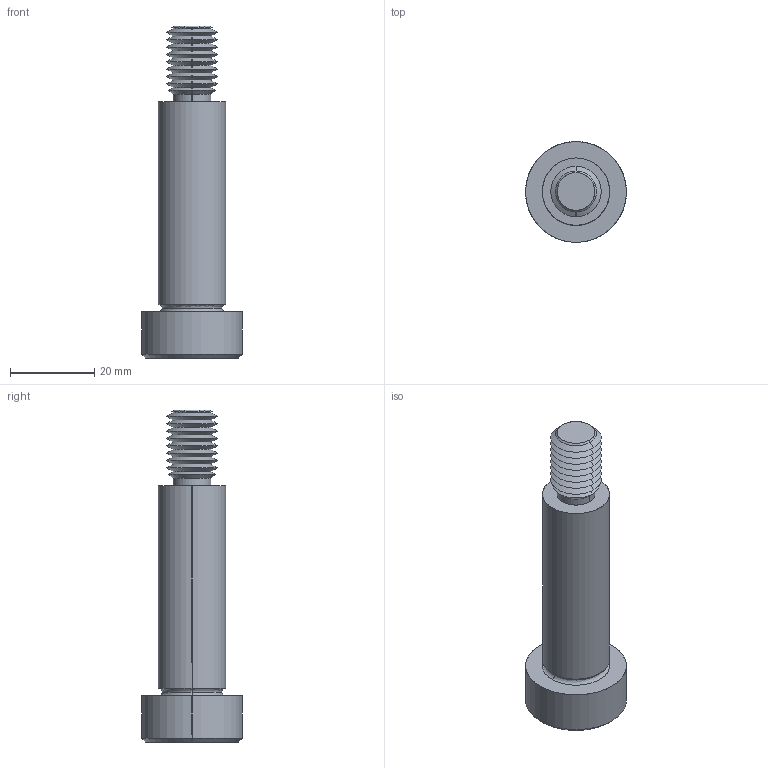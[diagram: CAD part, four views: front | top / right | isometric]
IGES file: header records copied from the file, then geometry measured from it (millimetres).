
Start section: SolidWorks IGES file using analytic representation for surfaces
Global section: file name: C:\Users\IanO\Documents\Temp Folder\GENERAL\SCREW REVISION\P0130_v2\P0130.T5_v2_20220106_IGES\P0130.160-050-T5.igs; native system: SolidWorks 2019; preprocessor: SolidWorks 2019; author: IanO; date: 220106.225500; units: millimetre
Bounding box: 24 x 24 x 79 mm (x, y, z)
Surface area: 5559.8 mm2 (no closed solid volume)
Topology: 0 solids, 0 shells, 76 faces, 588 edges, 586 vertices
Faces by surface type: revolution 56, bspline 20
